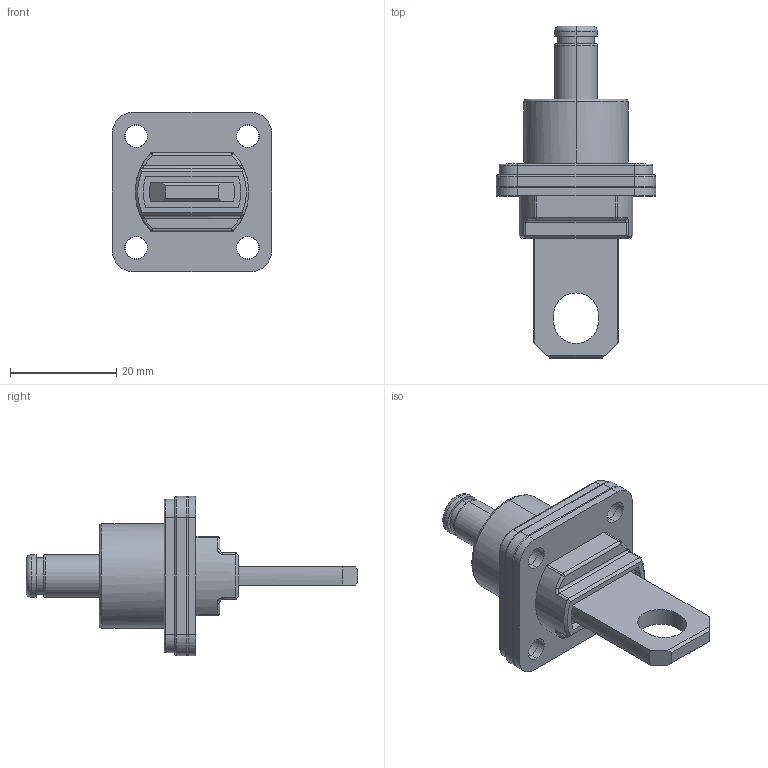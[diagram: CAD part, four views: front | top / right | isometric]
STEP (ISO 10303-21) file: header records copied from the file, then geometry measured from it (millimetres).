
FILE_DESCRIPTION (( 'STEP AP214' ), '1' );
FILE_NAME ('RL9080-20X-F1.STEP', '2017-01-12T01:19:52', ( '' ), ( '' ), 'SwSTEP 2.0', 'SolidWorks 2014', '' );
FILE_SCHEMA (( 'AUTOMOTIVE_DESIGN' ));
Length unit declared in the file: millimetre
Products named in the file (1): RL9080-20X-F1
Bounding box: 30 x 62.5 x 30 mm (x, y, z)
Volume: 9954.5 mm3; surface area: 6319.6 mm2
Topology: 1 solids, 1 shells, 352 faces, 850 edges, 489 vertices
Faces by surface type: cylinder 157, plane 92, sphere 49, torus 44, bspline 8, cone 2
Entity records: 10815 total; most frequent: CARTESIAN_POINT 1944, DIRECTION 1897, ORIENTED_EDGE 1624, EDGE_CURVE 812, AXIS2_PLACEMENT_3D 771, VERTEX_POINT 478, CIRCLE 426, EDGE_LOOP 378
